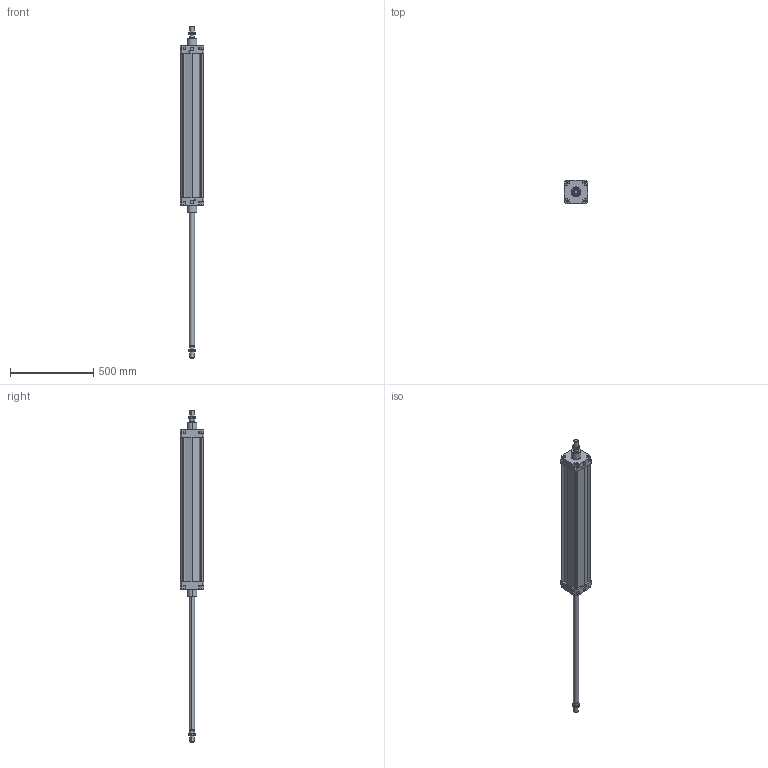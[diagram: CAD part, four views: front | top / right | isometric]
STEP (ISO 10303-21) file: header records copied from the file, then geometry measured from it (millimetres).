
FILE_DESCRIPTION((''),'2;1');
FILE_NAME('I:\DOC-EDP\Lib-3d\1319\CILINDRI\Ø125\1319_125_0800_02.stp','2003-04-08T12:27:33',('maffial1'),(''),'Autodesk Inventor (R) 6.0','Autodesk Inventor (R) 6.0','');
FILE_SCHEMA(('AUTOMOTIVE_DESIGN { 1 0 10303 214 1 1 1 1 }'));
Length unit declared in the file: millimetre
Products named in the file (4): 1319_125_0800_02; CIM04_125_800; CIM03_125_800; 1320_125_18F
Assembly tree (4 placements, depth 2):
  1319_125_0800_02
    CIM04_125_800
    CIM03_125_800
    1320_125_18F  x2
Bounding box: 140 x 140 x 1998 mm (x, y, z)
Volume: 16452360.7 mm3; surface area: 936288.9 mm2
Topology: 4 solids, 4 shells, 290 faces, 724 edges, 452 vertices
Faces by surface type: plane 130, bspline 72, cone 60, cylinder 28
Entity records: 8094 total; most frequent: CARTESIAN_POINT 1972, ORIENTED_EDGE 1288, DIRECTION 1160, EDGE_CURVE 644, VECTOR 480, LINE 480, VERTEX_POINT 416, AXIS2_PLACEMENT_3D 340
